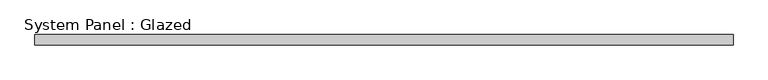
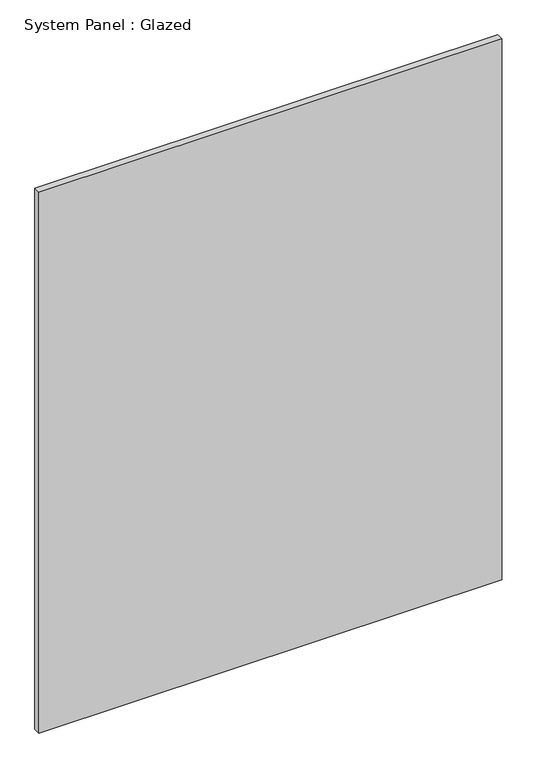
"""IFC4 building model written with IfcOpenShell, lengths in millimetres: plate geometry, System Panel : Glazed."""

from ifc_helpers import new_model, si_unit, origin, origin_with_axes, place, context, project, spatial, polyline, outline, extrude, source, transform, mapped, element, save


def system_panel_glazed_6099dd72(model_context):
    return source(origin(), model_context, "Body", "SweptSolid", [
        extrude(outline(polyline([(939.1009533, -14.0), (-939.1009533, -14.0), (-939.1009533, 14.0), (939.1009533, 14.0), (939.1009533, -14.0)])), origin_with_axes(), (0.0, 0.0, 1.0), 2320.5),
    ])


if __name__ == "__main__":
    model = new_model("IFC4")
    model_context = context("Model", 3, world=origin())
    ifc_project = project(units=[si_unit("LENGTHUNIT", "METRE", prefix="MILLI")], contexts=[model_context])
    site = spatial("IfcSite", under=ifc_project)
    building = spatial("IfcBuilding", under=site)
    placement = place(None, origin())
    system_panel_glazed_shape = system_panel_glazed_6099dd72(model_context)
    element("IfcPlate", 1, ObjectType="System Panel : Glazed", at=placement, inside=building, context=model_context, shape_type="MappedRepresentation", body=[
        mapped(system_panel_glazed_shape, transform((0.0, 0.0, 0.0), x_axis=(1.0, 0.0, 0.0), y_axis=(0.0, 1.0, 0.0), z_axis=(0.0, 0.0, 1.0))),
    ])
    save(model, "model.ifc")
